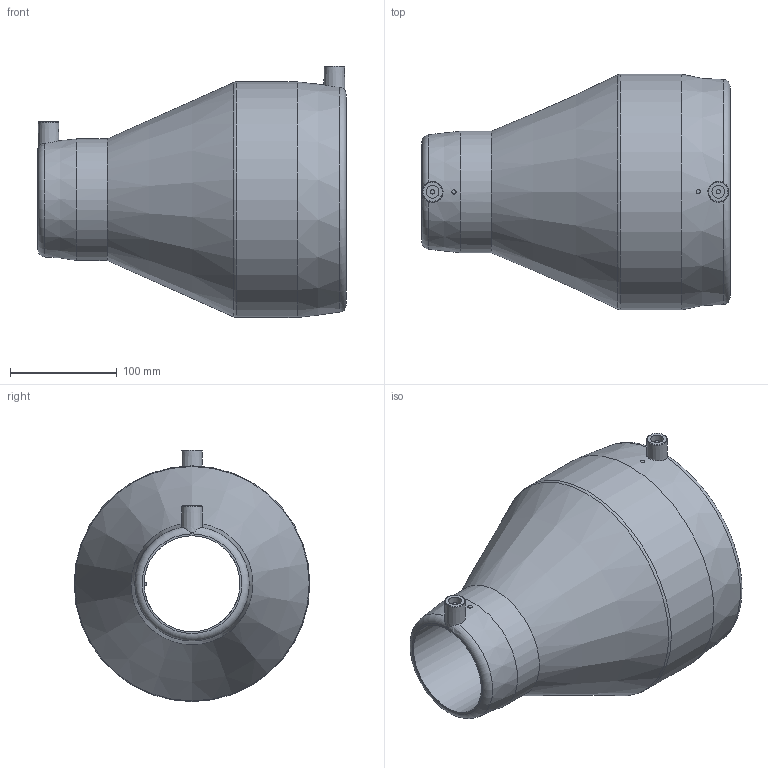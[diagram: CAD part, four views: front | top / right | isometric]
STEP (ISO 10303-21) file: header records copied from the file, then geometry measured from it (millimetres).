
FILE_DESCRIPTION(/* description */ ('Unknown'),/* implementation_level */ '2;1');
FILE_NAME(/* name */ 'REP180090C',/* time_stamp */ '2021-05-25T15:35:52+02:00',/* author */ ('Unknown'),/* organization */ ('Unknown'),/* preprocessor_version */ 'ST-DEVELOPER v16.7',/* originating_system */ 'Solid Edge',/* authorisation */ 'Unknown');
FILE_SCHEMA (('AUTOMOTIVE_DESIGN {1 0 10303 214 3 1 1}'));
Length unit declared in the file: millimetre
Products named in the file (1): REP180090C
Bounding box: 289 x 221 x 235.5 mm (x, y, z)
Volume: 2695291.9 mm3; surface area: 304666.2 mm2
Topology: 1 solids, 1 shells, 36 faces, 79 edges, 50 vertices
Faces by surface type: plane 15, cylinder 10, cone 6, torus 5
Full cylindrical faces by diameter (mm): 4 x3, 12 x2, 90 x1, 114 x1, 180 x1, 221 x1
Entity records: 868 total; most frequent: CARTESIAN_POINT 194, DIRECTION 142, ORIENTED_EDGE 92, AXIS2_PLACEMENT_3D 66, EDGE_LOOP 64, FACE_BOUND 64, EDGE_CURVE 46, VERTEX_POINT 38
